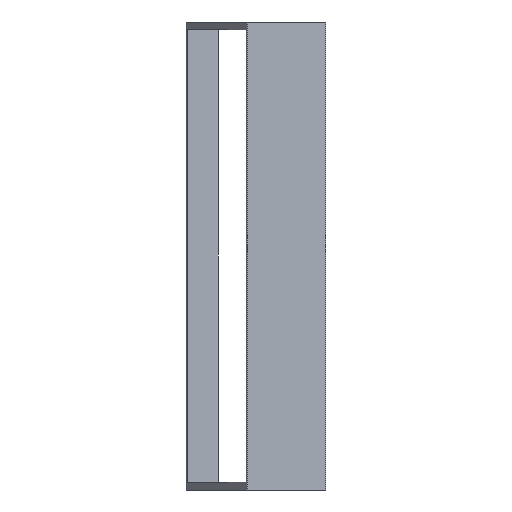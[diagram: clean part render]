
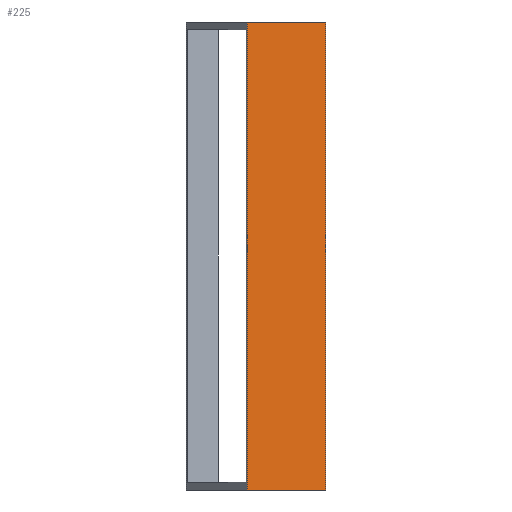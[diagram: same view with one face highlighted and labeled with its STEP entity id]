
A CAD part, left-side view. The second image highlights one B-rep face of the part: STEP entity #225.
In plain terms, the highlighted planar face has unit normal (-0.985, -0.175, 0).
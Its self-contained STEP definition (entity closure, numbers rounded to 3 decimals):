
#61 = EDGE_CURVE('',#62,#64,#66,.T.);
#62 = VERTEX_POINT('',#63);
#63 = CARTESIAN_POINT('',(-4.008,8.613,-2.347));
#64 = VERTEX_POINT('',#65);
#65 = CARTESIAN_POINT('',(-4.098,9.123,-2.347));
#66 = LINE('',#67,#68);
#67 = CARTESIAN_POINT('',(-3.958,8.335,-2.347));
#68 = VECTOR('',#69,1.);
#69 = DIRECTION('',(-0.175,0.985,0.));
#95 = EDGE_CURVE('',#64,#96,#98,.T.);
#96 = VERTEX_POINT('',#97);
#97 = CARTESIAN_POINT('',(-4.098,9.123,0.703));
#98 = LINE('',#99,#100);
#99 = CARTESIAN_POINT('',(-4.098,9.123,-2.347));
#100 = VECTOR('',#101,1.);
#101 = DIRECTION('',(0.,0.,1.));
#151 = EDGE_CURVE('',#152,#96,#154,.T.);
#152 = VERTEX_POINT('',#153);
#153 = CARTESIAN_POINT('',(-4.008,8.613,0.703));
#154 = LINE('',#155,#156);
#155 = CARTESIAN_POINT('',(-3.958,8.335,0.703));
#156 = VECTOR('',#157,1.);
#157 = DIRECTION('',(-0.175,0.985,0.));
#178 = EDGE_CURVE('',#62,#152,#179,.T.);
#179 = LINE('',#180,#181);
#180 = CARTESIAN_POINT('',(-4.008,8.613,-10.));
#181 = VECTOR('',#182,1.);
#182 = DIRECTION('',(0.,0.,1.));
#225 = ADVANCED_FACE('',(#226),#232,.T.);
#226 = FACE_BOUND('',#227,.T.);
#227 = EDGE_LOOP('',(#228,#229,#230,#231));
#228 = ORIENTED_EDGE('',*,*,#61,.F.);
#229 = ORIENTED_EDGE('',*,*,#178,.T.);
#230 = ORIENTED_EDGE('',*,*,#151,.T.);
#231 = ORIENTED_EDGE('',*,*,#95,.F.);
#232 = PLANE('',#233);
#233 = AXIS2_PLACEMENT_3D('',#234,#235,#236);
#234 = CARTESIAN_POINT('',(-3.958,8.335,-2.347));
#235 = DIRECTION('',(-0.985,-0.175,0.));
#236 = DIRECTION('',(0.,0.,1.));
